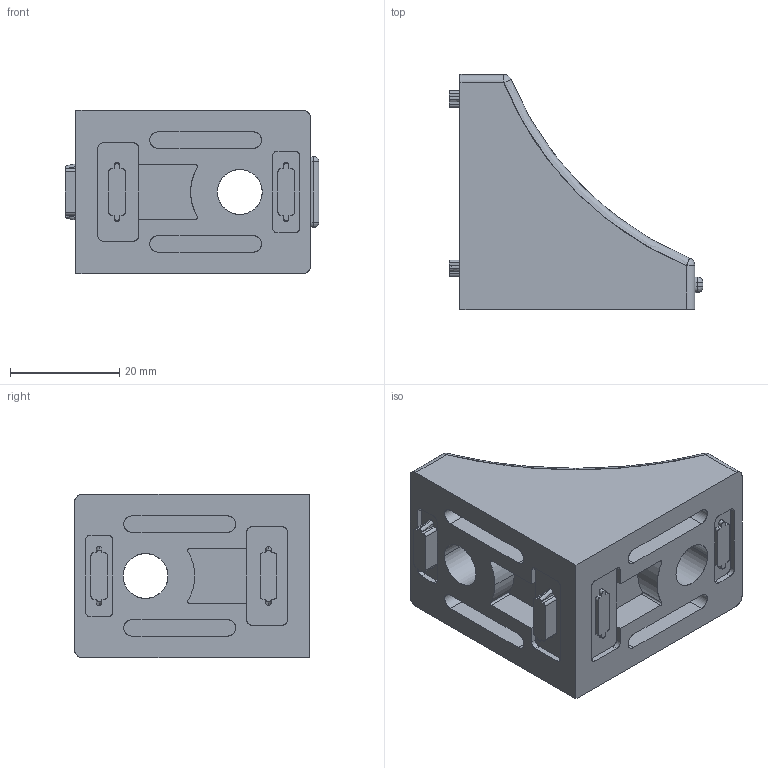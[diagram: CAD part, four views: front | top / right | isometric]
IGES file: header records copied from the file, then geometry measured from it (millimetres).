
Start section: SolidWorks IGES file using analytic representation for surfaces
Global section: file name: C:\Documents and Settings\ImaruA\My Documents\検討物件\2012WEB DATA\SFJ-041.IGS; native system: SolidWorks 2006 by SolidWorks Corporation; preprocessor: SolidWorks 2006 by SolidWorks Corporation; author: ImaruA; date: 121117.113232; units: millimetre
Bounding box: 46.5 x 43 x 30 mm (x, y, z)
Surface area: 9722 mm2 (no closed solid volume)
Topology: 0 solids, 0 shells, 236 faces, 2308 edges, 2296 vertices
Faces by surface type: bspline 120, revolution 116
